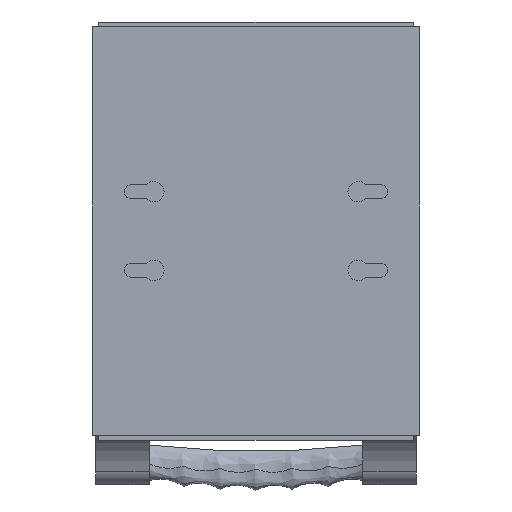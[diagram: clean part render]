
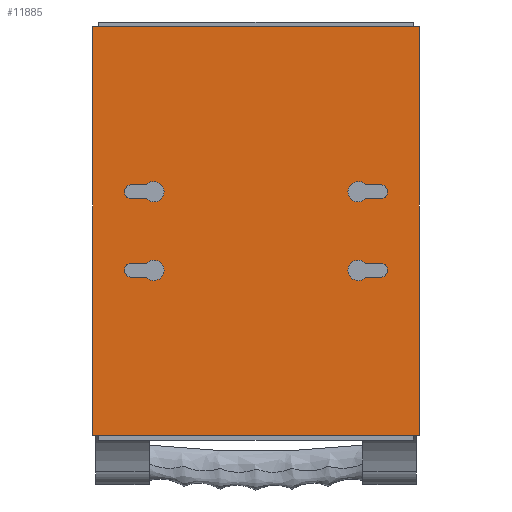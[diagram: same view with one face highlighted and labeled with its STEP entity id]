
A CAD part, front view. The second image highlights one B-rep face of the part: STEP entity #11885.
In plain terms, the highlighted planar face has unit normal (0, -1, 0).
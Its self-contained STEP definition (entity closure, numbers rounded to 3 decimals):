
#9279=PLANE('',#35566);
#11885=ADVANCED_FACE('',(#15416,#15417,#15418,#15419,#15420),#9279,.F.);
#15416=FACE_BOUND('',#15648,.T.);
#15417=FACE_BOUND('',#15649,.T.);
#15418=FACE_BOUND('',#15650,.T.);
#15419=FACE_BOUND('',#15651,.T.);
#15420=FACE_BOUND('',#15652,.T.);
#15648=EDGE_LOOP('',(#21562,#21563,#21564,#21565));
#15649=EDGE_LOOP('',(#21566,#21567,#21568,#21569));
#15650=EDGE_LOOP('',(#21570,#21571,#21572,#21573));
#15651=EDGE_LOOP('',(#21574,#21575,#21576,#21577));
#15652=EDGE_LOOP('',(#21578,#21579,#21580,#21581));
#17228=LINE('',#47889,#18877);
#17251=LINE('',#47951,#18900);
#17421=LINE('',#48330,#19070);
#17422=LINE('',#48332,#19071);
#17423=LINE('',#48334,#19072);
#17424=LINE('',#48339,#19073);
#17425=LINE('',#48342,#19074);
#17426=LINE('',#48347,#19075);
#17427=LINE('',#48350,#19076);
#17428=LINE('',#48355,#19077);
#17429=LINE('',#48358,#19078);
#17430=LINE('',#48363,#19079);
#18877=VECTOR('',#38767,1.);
#18900=VECTOR('',#38812,1.);
#19070=VECTOR('',#39088,1.);
#19071=VECTOR('',#39091,1.);
#19072=VECTOR('',#39094,1.);
#19073=VECTOR('',#39097,1.);
#19074=VECTOR('',#39100,1.);
#19075=VECTOR('',#39103,1.);
#19076=VECTOR('',#39106,1.);
#19077=VECTOR('',#39109,1.);
#19078=VECTOR('',#39112,1.);
#19079=VECTOR('',#39115,1.);
#21562=ORIENTED_EDGE('',*,*,#31819,.F.);
#21563=ORIENTED_EDGE('',*,*,#31591,.F.);
#21564=ORIENTED_EDGE('',*,*,#31818,.F.);
#21565=ORIENTED_EDGE('',*,*,#31624,.F.);
#21566=ORIENTED_EDGE('',*,*,#31820,.F.);
#21567=ORIENTED_EDGE('',*,*,#31821,.F.);
#21568=ORIENTED_EDGE('',*,*,#31822,.F.);
#21569=ORIENTED_EDGE('',*,*,#31823,.F.);
#21570=ORIENTED_EDGE('',*,*,#31824,.F.);
#21571=ORIENTED_EDGE('',*,*,#31825,.F.);
#21572=ORIENTED_EDGE('',*,*,#31826,.F.);
#21573=ORIENTED_EDGE('',*,*,#31827,.F.);
#21574=ORIENTED_EDGE('',*,*,#31828,.F.);
#21575=ORIENTED_EDGE('',*,*,#31829,.F.);
#21576=ORIENTED_EDGE('',*,*,#31830,.F.);
#21577=ORIENTED_EDGE('',*,*,#31831,.F.);
#21578=ORIENTED_EDGE('',*,*,#31832,.F.);
#21579=ORIENTED_EDGE('',*,*,#31833,.F.);
#21580=ORIENTED_EDGE('',*,*,#31834,.F.);
#21581=ORIENTED_EDGE('',*,*,#31835,.F.);
#29002=VERTEX_POINT('',#47890);
#29003=VERTEX_POINT('',#47891);
#29030=VERTEX_POINT('',#47952);
#29031=VERTEX_POINT('',#47953);
#29186=VERTEX_POINT('',#48335);
#29187=VERTEX_POINT('',#48336);
#29188=VERTEX_POINT('',#48338);
#29189=VERTEX_POINT('',#48340);
#29190=VERTEX_POINT('',#48343);
#29191=VERTEX_POINT('',#48344);
#29192=VERTEX_POINT('',#48346);
#29193=VERTEX_POINT('',#48348);
#29194=VERTEX_POINT('',#48351);
#29195=VERTEX_POINT('',#48352);
#29196=VERTEX_POINT('',#48354);
#29197=VERTEX_POINT('',#48356);
#29198=VERTEX_POINT('',#48359);
#29199=VERTEX_POINT('',#48360);
#29200=VERTEX_POINT('',#48362);
#29201=VERTEX_POINT('',#48364);
#31591=EDGE_CURVE('',#29002,#29003,#17228,.T.);
#31624=EDGE_CURVE('',#29030,#29031,#17251,.T.);
#31818=EDGE_CURVE('',#29031,#29002,#17421,.T.);
#31819=EDGE_CURVE('',#29003,#29030,#17422,.T.);
#31820=EDGE_CURVE('',#29186,#29187,#17423,.T.);
#31821=EDGE_CURVE('',#29188,#29186,#34790,.T.);
#31822=EDGE_CURVE('',#29189,#29188,#17424,.T.);
#31823=EDGE_CURVE('',#29187,#29189,#34791,.T.);
#31824=EDGE_CURVE('',#29190,#29191,#17425,.T.);
#31825=EDGE_CURVE('',#29192,#29190,#34792,.T.);
#31826=EDGE_CURVE('',#29193,#29192,#17426,.T.);
#31827=EDGE_CURVE('',#29191,#29193,#34793,.T.);
#31828=EDGE_CURVE('',#29194,#29195,#17427,.T.);
#31829=EDGE_CURVE('',#29196,#29194,#34794,.T.);
#31830=EDGE_CURVE('',#29197,#29196,#17428,.T.);
#31831=EDGE_CURVE('',#29195,#29197,#34795,.T.);
#31832=EDGE_CURVE('',#29198,#29199,#17429,.T.);
#31833=EDGE_CURVE('',#29200,#29198,#34796,.T.);
#31834=EDGE_CURVE('',#29201,#29200,#17430,.T.);
#31835=EDGE_CURVE('',#29199,#29201,#34797,.T.);
#34790=CIRCLE('',#35558,6.5);
#34791=CIRCLE('',#35559,4.5);
#34792=CIRCLE('',#35560,4.5);
#34793=CIRCLE('',#35561,6.5);
#34794=CIRCLE('',#35562,6.5);
#34795=CIRCLE('',#35563,4.5);
#34796=CIRCLE('',#35564,4.5);
#34797=CIRCLE('',#35565,6.5);
#35558=AXIS2_PLACEMENT_3D('',#48337,#39095,#39096);
#35559=AXIS2_PLACEMENT_3D('',#48341,#39098,#39099);
#35560=AXIS2_PLACEMENT_3D('',#48345,#39101,#39102);
#35561=AXIS2_PLACEMENT_3D('',#48349,#39104,#39105);
#35562=AXIS2_PLACEMENT_3D('',#48353,#39107,#39108);
#35563=AXIS2_PLACEMENT_3D('',#48357,#39110,#39111);
#35564=AXIS2_PLACEMENT_3D('',#48361,#39113,#39114);
#35565=AXIS2_PLACEMENT_3D('',#48365,#39116,#39117);
#35566=AXIS2_PLACEMENT_3D('',#48366,#39118,#39119);
#38767=DIRECTION('',(-1.,0.,0.));
#38812=DIRECTION('',(1.,0.,0.));
#39088=DIRECTION('',(0.,0.,-1.));
#39091=DIRECTION('',(0.,0.,1.));
#39094=DIRECTION('',(1.,0.,0.));
#39095=DIRECTION('',(0.,-1.,0.));
#39096=DIRECTION('',(0.,0.,-1.));
#39097=DIRECTION('',(-1.,0.,0.));
#39098=DIRECTION('',(0.,-1.,0.));
#39099=DIRECTION('',(0.,0.,-1.));
#39100=DIRECTION('',(-1.,0.,0.));
#39101=DIRECTION('',(0.,-1.,0.));
#39102=DIRECTION('',(0.,0.,1.));
#39103=DIRECTION('',(1.,0.,0.));
#39104=DIRECTION('',(0.,-1.,0.));
#39105=DIRECTION('',(0.,0.,1.));
#39106=DIRECTION('',(-1.,0.,0.));
#39107=DIRECTION('',(0.,-1.,0.));
#39108=DIRECTION('',(0.,0.,-1.));
#39109=DIRECTION('',(1.,0.,0.));
#39110=DIRECTION('',(0.,-1.,0.));
#39111=DIRECTION('',(0.,0.,-1.));
#39112=DIRECTION('',(1.,0.,0.));
#39113=DIRECTION('',(0.,-1.,0.));
#39114=DIRECTION('',(0.,0.,1.));
#39115=DIRECTION('',(-1.,0.,0.));
#39116=DIRECTION('',(0.,-1.,0.));
#39117=DIRECTION('',(0.,0.,1.));
#39118=DIRECTION('',(0.,1.,0.));
#39119=DIRECTION('',(0.,0.,1.));
#47889=CARTESIAN_POINT('',(-104.,-84.,-86.076));
#47890=CARTESIAN_POINT('',(104.,-84.,-86.076));
#47891=CARTESIAN_POINT('',(-104.,-84.,-86.076));
#47951=CARTESIAN_POINT('',(-104.,-84.,173.924));
#47952=CARTESIAN_POINT('',(-104.,-84.,173.924));
#47953=CARTESIAN_POINT('',(104.,-84.,173.924));
#48330=CARTESIAN_POINT('',(104.,-84.,173.924));
#48332=CARTESIAN_POINT('',(-104.,-84.,173.924));
#48334=CARTESIAN_POINT('',(79.25,-84.,14.424));
#48335=CARTESIAN_POINT('',(69.69,-84.,14.424));
#48336=CARTESIAN_POINT('',(79.25,-84.,14.424));
#48337=CARTESIAN_POINT('',(65.,-84.,18.924));
#48338=CARTESIAN_POINT('',(69.69,-84.,23.424));
#48339=CARTESIAN_POINT('',(79.25,-84.,23.424));
#48340=CARTESIAN_POINT('',(79.25,-84.,23.424));
#48341=CARTESIAN_POINT('',(79.25,-84.,18.924));
#48342=CARTESIAN_POINT('',(79.25,-84.,73.424));
#48343=CARTESIAN_POINT('',(79.25,-84.,73.424));
#48344=CARTESIAN_POINT('',(69.69,-84.,73.424));
#48345=CARTESIAN_POINT('',(79.25,-84.,68.924));
#48346=CARTESIAN_POINT('',(79.25,-84.,64.424));
#48347=CARTESIAN_POINT('',(79.25,-84.,64.424));
#48348=CARTESIAN_POINT('',(69.69,-84.,64.424));
#48349=CARTESIAN_POINT('',(65.,-84.,68.924));
#48350=CARTESIAN_POINT('',(-79.25,-84.,73.424));
#48351=CARTESIAN_POINT('',(-69.69,-84.,73.424));
#48352=CARTESIAN_POINT('',(-79.25,-84.,73.424));
#48353=CARTESIAN_POINT('',(-65.,-84.,68.924));
#48354=CARTESIAN_POINT('',(-69.69,-84.,64.424));
#48355=CARTESIAN_POINT('',(-79.25,-84.,64.424));
#48356=CARTESIAN_POINT('',(-79.25,-84.,64.424));
#48357=CARTESIAN_POINT('',(-79.25,-84.,68.924));
#48358=CARTESIAN_POINT('',(-79.25,-84.,14.424));
#48359=CARTESIAN_POINT('',(-79.25,-84.,14.424));
#48360=CARTESIAN_POINT('',(-69.69,-84.,14.424));
#48361=CARTESIAN_POINT('',(-79.25,-84.,18.924));
#48362=CARTESIAN_POINT('',(-79.25,-84.,23.424));
#48363=CARTESIAN_POINT('',(-79.25,-84.,23.424));
#48364=CARTESIAN_POINT('',(-69.69,-84.,23.424));
#48365=CARTESIAN_POINT('',(-65.,-84.,18.924));
#48366=CARTESIAN_POINT('',(104.,-84.,173.924));
